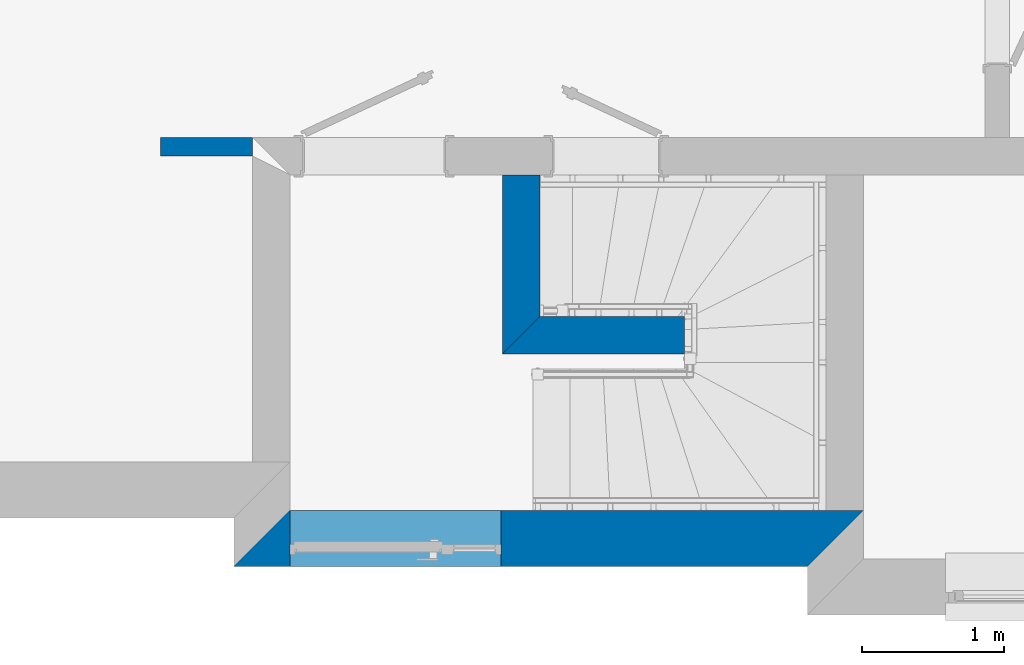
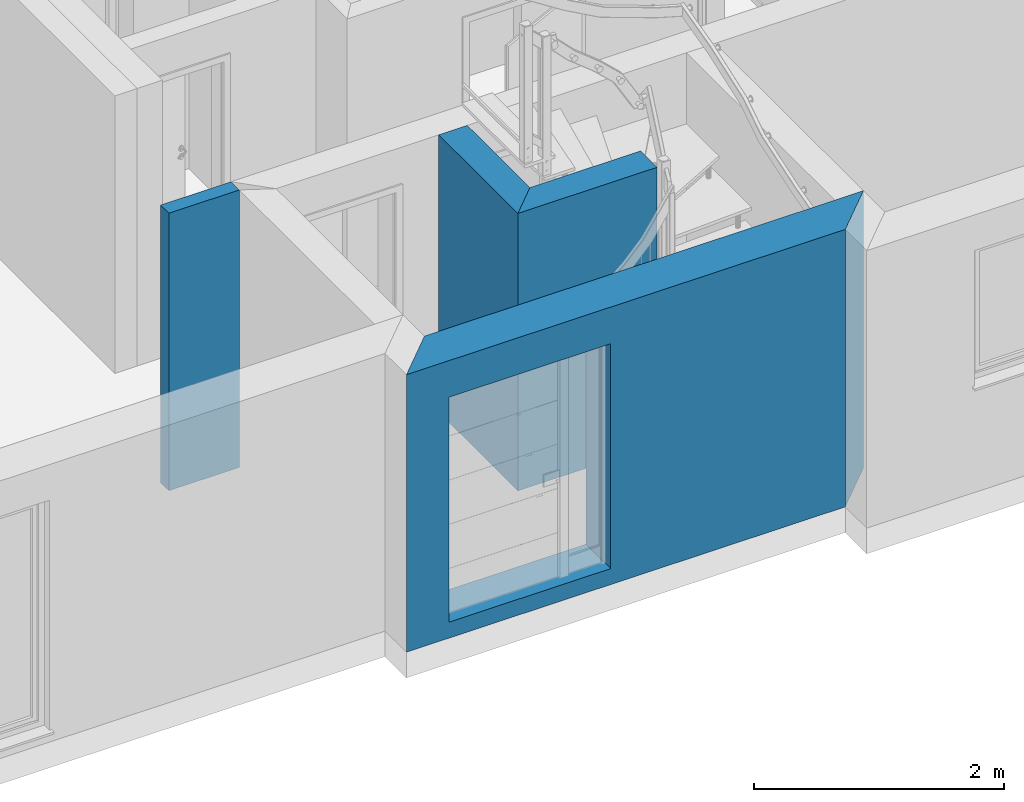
# One storey, part 4 of 13: 4 walls, 1 opening.
"""IFC2X3 building model written with IfcOpenShell, lengths in millimetres."""

from ifc_helpers import new_model, si_unit, frame, origin_with_axes, place, context, project, spatial, faceted_brep, material, layer, layer_set, layer_usage, element, save


model = new_model("IFC2X3")

# Units and contexts
model_context = context("Model", 3, world=origin_with_axes())
ifc_project = project(units=[si_unit("LENGTHUNIT", "METRE", prefix="MILLI")], contexts=[model_context])

# Site, building, storey
site_placement = place(None, origin_with_axes())
site = spatial("IfcSite", under=ifc_project, at=site_placement, Name="Site", CompositionType="ELEMENT")
building_placement = place(site_placement, origin_with_axes())
building = spatial("IfcBuilding", under=site, at=building_placement, Name="?", CompositionType="ELEMENT")
storey_placement = place(building_placement, origin_with_axes())
storey = spatial("IfcBuildingStorey", under=building, at=storey_placement, Name="Erdgeschoß", CompositionType="ELEMENT", Elevation=0.0)

# Wall, opening
ifc_material_1 = material(Name="Material_AW")
ifc_layer_1 = layer(ifc_material_1, 395.0, ventilated=False)
ifc_layer_set_1 = layer_set([ifc_layer_1], Name="MaterialLayerSet_AW")
ifc_layer_usage_1 = layer_usage(ifc_layer_set_1, "AXIS2", "NEGATIVE", 197.5)
wall_1_placement = place(storey_placement, frame((13747.5, -6900.5, 0.0), z_axis=(0.0, 0.0, 1.0), x_axis=(-1.0, 0.0, 0.0)))
wall_1 = element("IfcWall", 1, at=wall_1_placement, inside=storey, material=ifc_layer_usage_1, Name="AW-05", context=model_context, shape_type="Brep", body=[
    faceted_brep([(3852.50007906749, -197.5, 0.0), (3852.50007906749, -197.5, 2707.0), (-197.5, -197.5, 2707.0), (-197.5, -197.5, 0.0), (4247.50007906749, 197.5, 0.0), (4247.50007906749, 197.5, 150.0), (4247.50007906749, 197.5, 2707.0), (3852.50007906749, -197.5, 2707.0), (3852.50007906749, -197.5, 0.0), (197.5, 197.5, 0.0), (197.5, 197.5, 150.0), (4247.50007906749, 197.5, 150.0), (4247.50007906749, 197.5, 0.0), (197.5, 197.5, 150.0), (197.5, 197.5, 2707.0), (4247.50007906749, 197.5, 2707.0), (4247.50007906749, 197.5, 150.0), (-197.5, -197.5, 0.0), (-197.5, -197.5, 2707.0), (197.5, 197.5, 2707.0), (197.5, 197.5, 150.0), (197.5, 197.5, 0.0), (-197.5, -197.5, 0.0), (197.5, 197.5, 0.0), (4247.50007906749, 197.5, 0.0), (3852.50007906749, -197.5, 0.0), (197.5, 197.5, 2707.0), (-197.5, -197.5, 2707.0), (3852.50007906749, -197.5, 2707.0), (4247.50007906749, 197.5, 2707.0)], [[[0, 1, 2, 3]], [[4, 5, 6, 7, 8]], [[9, 10, 11, 12]], [[13, 14, 15, 16]], [[17, 18, 19, 20, 21]], [[22, 23, 24, 25]], [[26, 27, 28, 29]]]),
])
opening_placement = place(wall_1_placement, frame((2702.5, 0.0, 156.0), z_axis=(0.0, 0.0, 1.0), x_axis=(1.0, 0.0, 0.0)))
element("IfcOpeningElement", 2, at=opening_placement, cuts=wall_1, Name="AW-05|HT02", context=model_context, shape_type="Brep", body=[
    faceted_brep([(-340.0, 207.5, 0.0), (-340.0, 207.5, 2194.0), (1150.0, 207.5, 2194.0), (1150.0, 207.5, 0.0), (-340.0, -207.5, 0.0), (-340.0, -207.5, 2194.0), (-340.0, 207.5, 2194.0), (-340.0, 207.5, 0.0), (1150.0, -207.5, 0.0), (-340.0, -207.5, 0.0), (-340.0, 207.5, 0.0), (1150.0, 207.5, 0.0), (1150.0, -207.5, 2194.0), (1150.0, -207.5, 0.0), (1150.0, 207.5, 0.0), (1150.0, 207.5, 2194.0), (-340.0, -207.5, 2194.0), (1150.0, -207.5, 2194.0), (1150.0, 207.5, 2194.0), (-340.0, 207.5, 2194.0), (-340.0, -207.5, 0.0), (1150.0, -207.5, 0.0), (1150.0, -207.5, 2194.0), (-340.0, -207.5, 2194.0)], [[[0, 1, 2, 3]], [[4, 5, 6, 7]], [[8, 9, 10, 11]], [[12, 13, 14, 15]], [[16, 17, 18, 19]], [[20, 21, 22, 23]]]),
])

# Walls
ifc_material_2 = material(Name="Material_IW")
ifc_layer_2 = layer(ifc_material_2, 132.0, ventilated=False)
ifc_layer_set_2 = layer_set([ifc_layer_2], Name="MaterialLayerSet_IW")
ifc_layer_usage_2 = layer_usage(ifc_layer_set_2, "AXIS2", "NEGATIVE", 66.0)
wall_2_placement = place(storey_placement, frame((9631.0, -4135.0, 0.0), z_axis=(0.0, 0.0, 1.0), x_axis=(-1.0, 0.0, 0.0)))
element("IfcWall", 3, at=wall_2_placement, inside=storey, material=ifc_layer_usage_2, Name="IW-07", context=model_context, shape_type="Brep", body=[
    faceted_brep([(650.0, -66.0, 0.0), (650.0, -66.0, 2707.0), (0.0, -66.0, 2707.0), (0.0, -66.0, 0.0), (650.0, 66.0, 0.0), (650.0, 66.0, 2707.0), (650.0, -66.0, 2707.0), (650.0, -66.0, 0.0), (0.0, 66.0, 0.0), (0.0, 66.0, 2707.0), (650.0, 66.0, 2707.0), (650.0, 66.0, 0.0), (0.0, -66.0, 0.0), (0.0, -66.0, 2707.0), (0.0, 66.0, 2707.0), (0.0, 66.0, 0.0), (0.0, -66.0, 0.0), (0.0, 66.0, 0.0), (650.0, 66.0, 0.0), (650.0, -66.0, 0.0), (0.0, -66.0, 2707.0), (650.0, -66.0, 2707.0), (650.0, 66.0, 2707.0), (0.0, 66.0, 2707.0)], [[[0, 1, 2, 3]], [[4, 5, 6, 7]], [[8, 9, 10, 11]], [[12, 13, 14, 15]], [[16, 17, 18, 19]], [[20, 21, 22, 23]]]),
])
ifc_layer_3 = layer(ifc_material_2, 264.0, ventilated=False)
ifc_layer_set_3 = layer_set([ifc_layer_3], Name="MaterialLayerSet_IW")
ifc_layer_usage_3 = layer_usage(ifc_layer_set_3, "AXIS2", "NEGATIVE", 132.0)
wall_3_placement = place(storey_placement, frame((11527.0, -4333.0, 0.0), z_axis=(0.0, 0.0, 1.0), x_axis=(0.0, -1.0, 0.0)))
element("IfcWall", 4, at=wall_3_placement, inside=storey, material=ifc_layer_usage_3, Name="IW-19", context=model_context, shape_type="Brep", body=[
    faceted_brep([(1264.00054959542, -132.0, 0.0), (1264.00054959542, -132.0, 2707.0), (0.0, -132.0, 2707.0), (0.0, -132.0, 0.0), (1000.00006001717, 132.0, 0.0), (1000.00006001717, 132.0, 2707.0), (1264.00054959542, -132.0, 2707.0), (1264.00054959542, -132.0, 0.0), (0.0, 132.0, 0.0), (0.0, 132.0, 2707.0), (1000.00006001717, 132.0, 2707.0), (1000.00006001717, 132.0, 0.0), (0.0, -132.0, 0.0), (0.0, -132.0, 2707.0), (0.0, 132.0, 2707.0), (0.0, 132.0, 0.0), (0.0, -132.0, 0.0), (0.0, 132.0, 0.0), (1000.00006001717, 132.0, 0.0), (1264.00054959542, -132.0, 0.0), (0.0, -132.0, 2707.0), (1264.00054959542, -132.0, 2707.0), (1000.00006001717, 132.0, 2707.0), (0.0, 132.0, 2707.0)], [[[0, 1, 2, 3]], [[4, 5, 6, 7]], [[8, 9, 10, 11]], [[12, 13, 14, 15]], [[16, 17, 18, 19]], [[20, 21, 22, 23]]]),
])
wall_4_placement = place(storey_placement, frame((11527.0, -5465.0, 0.0), z_axis=(0.0, 0.0, 1.0), x_axis=(1.0, 0.0, 0.0)))
element("IfcWall", 5, at=wall_4_placement, inside=storey, material=ifc_layer_usage_3, Name="IW-20", context=model_context, shape_type="Brep", body=[
    faceted_brep([(1154.0, -132.0, 0.0), (1154.0, -132.0, 2707.0), (-132.0, -132.0, 2707.0), (-132.0, -132.0, 0.0), (1154.0, 132.0, 0.0), (1154.0, 132.0, 2707.0), (1154.0, -132.0, 2707.0), (1154.0, -132.0, 0.0), (131.999510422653, 132.0, 0.0), (131.999510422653, 132.0, 2707.0), (1154.0, 132.0, 2707.0), (1154.0, 132.0, 0.0), (-132.0, -132.0, 0.0), (-132.0, -132.0, 2707.0), (131.999510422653, 132.0, 2707.0), (131.999510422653, 132.0, 0.0), (-132.0, -132.0, 0.0), (131.999510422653, 132.0, 0.0), (1154.0, 132.0, 0.0), (1154.0, -132.0, 0.0), (-132.0, -132.0, 2707.0), (1154.0, -132.0, 2707.0), (1154.0, 132.0, 2707.0), (131.999510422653, 132.0, 2707.0)], [[[0, 1, 2, 3]], [[4, 5, 6, 7]], [[8, 9, 10, 11]], [[12, 13, 14, 15]], [[16, 17, 18, 19]], [[20, 21, 22, 23]]]),
])

save(model, "model.ifc")
